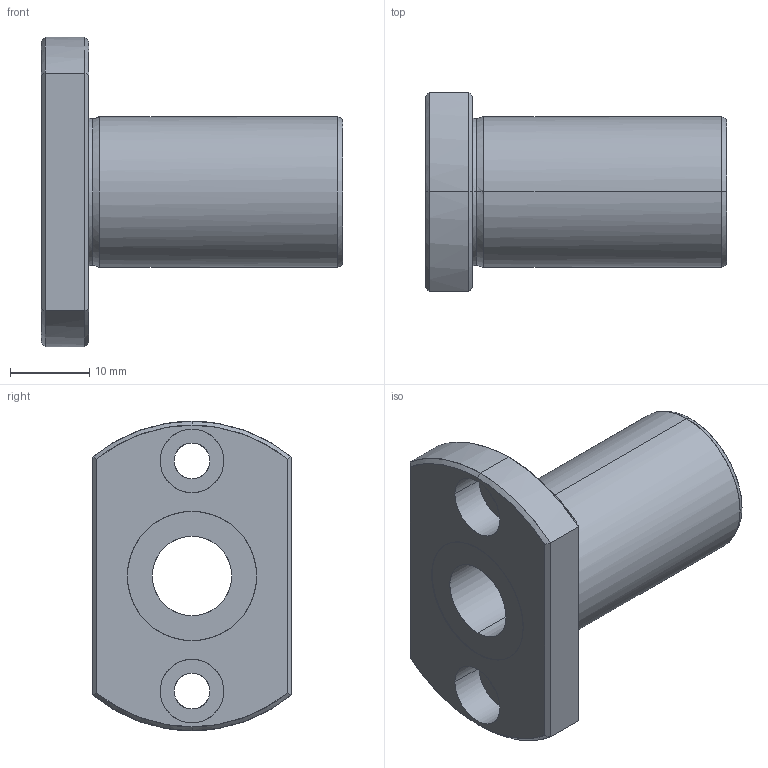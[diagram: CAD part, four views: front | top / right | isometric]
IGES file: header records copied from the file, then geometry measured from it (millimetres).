
Global section: file name: No Iges File Name specified; native system: AutoDesk Inventor R10; preprocessor: AutoDesk Inventor Iges Exporter R10; author: No Author specified; organization: No Organization specified; date: 20101216.173229; units: millimetre
Bounding box: 38 x 25 x 39 mm (x, y, z)
Surface area: 5574.2 mm2 (no closed solid volume)
Topology: 0 solids, 0 shells, 47 faces, 280 edges, 280 vertices
Faces by surface type: bspline 47
